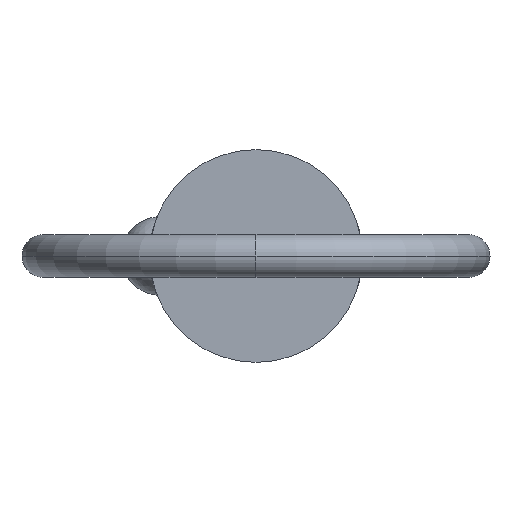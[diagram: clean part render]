
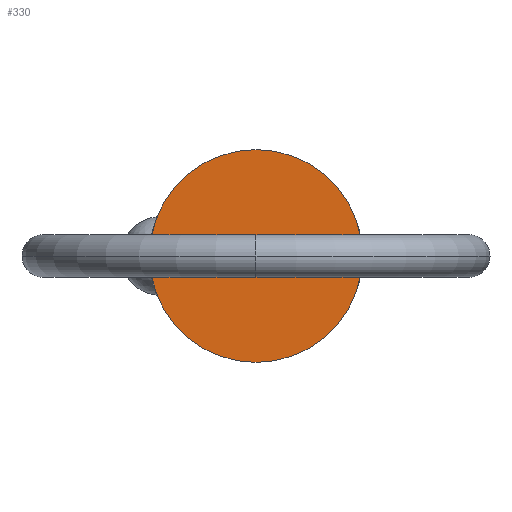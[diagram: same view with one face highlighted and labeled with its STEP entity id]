
A CAD part, left-side view. The second image highlights one B-rep face of the part: STEP entity #330.
In plain terms, the highlighted planar face has unit normal (-1, 0, 0).
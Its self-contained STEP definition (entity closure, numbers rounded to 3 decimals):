
#27 = CARTESIAN_POINT ( 'NONE',  ( 0., 0., -7.94 ) ) ;
#99 = DIRECTION ( 'NONE',  ( 0., 0., -1. ) ) ;
#104 = CARTESIAN_POINT ( 'NONE',  ( 0., 0., 0. ) ) ;
#163 = CIRCLE ( 'NONE', #232, 7.94 ) ;
#176 = CARTESIAN_POINT ( 'NONE',  ( 0., 0., 7.94 ) ) ;
#177 = CARTESIAN_POINT ( 'NONE',  ( 0., 0., 0. ) ) ;
#194 = VERTEX_POINT ( 'NONE', #176 ) ;
#232 = AXIS2_PLACEMENT_3D ( 'NONE', #572, #584, #846 ) ;
#240 = PLANE ( 'NONE',  #420 ) ;
#245 = DIRECTION ( 'NONE',  ( -1., 0., 0. ) ) ;
#316 = DIRECTION ( 'NONE',  ( 0., 0., 1. ) ) ;
#330 = ADVANCED_FACE ( 'NONE', ( #675 ), #240, .T. ) ;
#420 = AXIS2_PLACEMENT_3D ( 'NONE', #177, #245, #316 ) ;
#571 = CIRCLE ( 'NONE', #600, 7.94 ) ;
#572 = CARTESIAN_POINT ( 'NONE',  ( 0., 0., 0. ) ) ;
#582 = EDGE_LOOP ( 'NONE', ( #894, #612 ) ) ;
#584 = DIRECTION ( 'NONE',  ( 1., 0., 0. ) ) ;
#587 = EDGE_CURVE ( 'NONE', #194, #897, #163, .T. ) ;
#600 = AXIS2_PLACEMENT_3D ( 'NONE', #104, #832, #99 ) ;
#612 = ORIENTED_EDGE ( 'NONE', *, *, #587, .F. ) ;
#675 = FACE_OUTER_BOUND ( 'NONE', #582, .T. ) ;
#678 = EDGE_CURVE ( 'NONE', #897, #194, #571, .T. ) ;
#832 = DIRECTION ( 'NONE',  ( 1., 0., 0. ) ) ;
#846 = DIRECTION ( 'NONE',  ( 0., 0., -1. ) ) ;
#894 = ORIENTED_EDGE ( 'NONE', *, *, #678, .F. ) ;
#897 = VERTEX_POINT ( 'NONE', #27 ) ;
